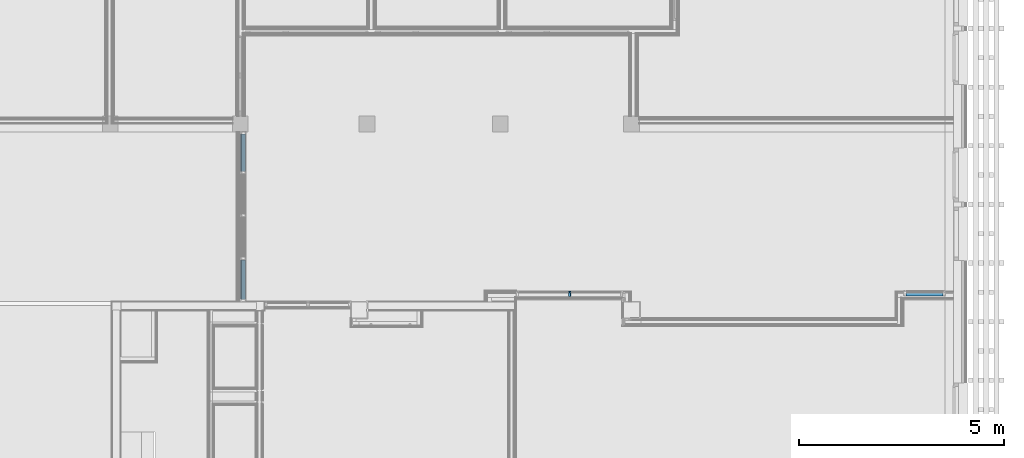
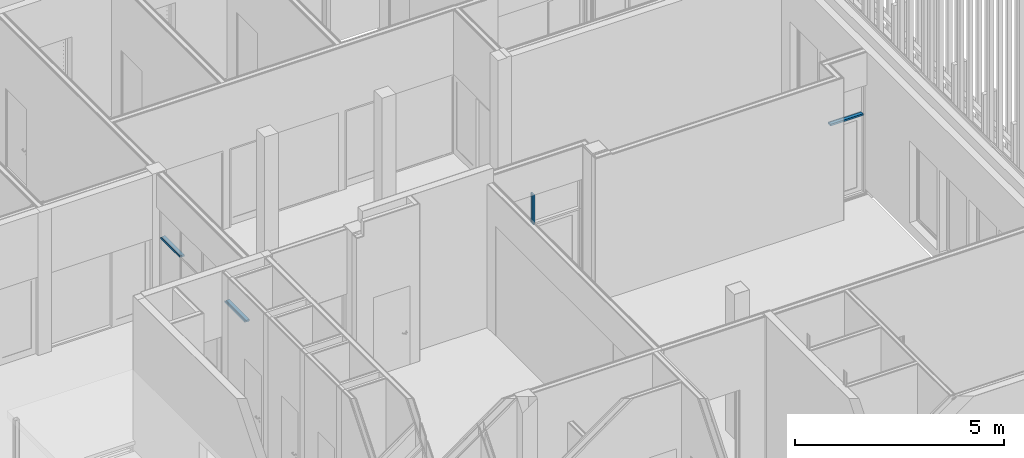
# One storey, part 98 of 260: 4 members, 3 elements without a shape of their own.
"""IFC2X3 building model written with IfcOpenShell, lengths in millimetres."""

from ifc_helpers import new_model, entity, si_unit, converted_unit, derived_unit, money_unit, direction, frame, origin_with_axes, place, context, subcontext, project, spatial, faceted_brep, material, type_object, element, aggregate, save


model = new_model("IFC2X3")

# Units and contexts
model_context = context("Model", 3, precision=0.01, world=origin_with_axes(), true_north=direction((0.0, 1.0)))
body_context = subcontext(model_context, "Body", "Model", "MODEL_VIEW")
ifc_project = project(units=[si_unit("LENGTHUNIT", "METRE", prefix="MILLI"), si_unit("AREAUNIT", "SQUARE_METRE"), si_unit("VOLUMEUNIT", "CUBIC_METRE"), converted_unit("PLANEANGLEUNIT", "DEGREE", entity("IfcPlaneAngleMeasure", 0.0174532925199), si_unit("PLANEANGLEUNIT", "RADIAN"), dimensions=[0, 0, 0, 0, 0, 0, 0]), money_unit("EUR"), converted_unit("TIMEUNIT", "Year", entity("IfcTimeMeasure", 31556926.0), si_unit("TIMEUNIT", "SECOND"), dimensions=[0, 0, 1, 0, 0, 0, 0]), si_unit("MASSUNIT", "GRAM", prefix="KILO"), si_unit("THERMODYNAMICTEMPERATUREUNIT", "DEGREE_CELSIUS"), si_unit("LUMINOUSINTENSITYUNIT", "LUMEN"), si_unit("ENERGYUNIT", "JOULE", prefix="MEGA"), derived_unit("THERMALCONDUCTANCEUNIT", [(si_unit("POWERUNIT", "WATT"), 1), (si_unit("LENGTHUNIT", "METRE"), -1), (si_unit("THERMODYNAMICTEMPERATUREUNIT", "KELVIN"), -1)]), derived_unit("SPECIFICHEATCAPACITYUNIT", [(si_unit("ENERGYUNIT", "JOULE"), 1), (si_unit("MASSUNIT", "GRAM", prefix="KILO"), -1), (si_unit("THERMODYNAMICTEMPERATUREUNIT", "KELVIN"), -1)]), derived_unit("MASSDENSITYUNIT", [(si_unit("MASSUNIT", "GRAM", prefix="KILO"), 1), (si_unit("VOLUMEUNIT", "CUBIC_METRE"), -1)])], contexts=[model_context])

# Site, building, storey
site_placement = place(None, origin_with_axes())
site = spatial("IfcSite", under=ifc_project, at=site_placement, Name="Kolde pst 67a", CompositionType="ELEMENT")
building_placement = place(site_placement, origin_with_axes())
building = spatial("IfcBuilding", under=site, at=building_placement, Name="Riigigümnaasium", CompositionType="ELEMENT")
storey_placement = place(building_placement, origin_with_axes())
storey = spatial("IfcBuildingStorey", under=building, at=storey_placement, Name="1. korrus", CompositionType="ELEMENT", Elevation=0.0)

# Curtain wall, members
curtain_wall_type = type_object("IfcCurtainWallType", Name="Curtain Wall Type", PredefinedType="NOTDEFINED")
curtain_wall_1_placement = place(storey_placement, frame((67073.6436674, 24969.9980242, -4.39663916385e-06), z_axis=(0.0, 0.0, 1.0), x_axis=(1.0, 0.0, 0.0)))
curtain_wall_1 = element("IfcCurtainWall", 1, at=curtain_wall_1_placement, inside=storey, type_object=curtain_wall_type, Name="KLAASSEIN")
ifc_material = material(Name="_METALL - alumiinium")
member_type_1 = type_object("IfcMemberType", Name="Transom Frame 50 x 125", PredefinedType="MEMBER")
member_1_placement = place(curtain_wall_1_placement, frame((0.0, -525.0, 2299.99999438), z_axis=(0.0, 1.0, 0.0), x_axis=(0.0, 0.0, 1.0)))
member_1 = element("IfcMember", 2, at=member_1_placement, type_object=member_type_1, material=ifc_material, Name="RF RAAM HOR-372", ObjectType="MEMBER", context=body_context, shape_type="Brep", body=[
    faceted_brep([(5.0, -10.0, 50.0), (5.0, 10.0, 50.0), (5.0, 10.0, 1025.0), (5.0, -10.0, 1025.0), (-5.0, -10.0, 50.0), (-5.0, 10.0, 50.0), (-5.0, 10.0, 1025.0), (-5.0, -10.0, 1025.0)], [[[0, 1, 2, 3]], [[1, 0, 4, 5]], [[1, 5, 6, 2]], [[2, 6, 7, 3]], [[4, 0, 3, 7]], [[5, 4, 7, 6]]]),
    faceted_brep([(25.0, 10.0, 50.0), (25.0, 100.0, 50.0), (25.0, 100.0, 1025.0), (25.0, 10.0, 1025.0), (-25.0, 10.0, 50.0), (-25.0, 100.0, 50.0), (-25.0, 100.0, 1025.0), (-25.0, 10.0, 1025.0)], [[[0, 1, 2, 3]], [[1, 0, 4, 5]], [[1, 5, 6, 2]], [[2, 6, 7, 3]], [[4, 0, 3, 7]], [[5, 4, 7, 6]]]),
    faceted_brep([(-25.0, -10.0, 50.0), (-25.0, -25.0, 50.0), (-25.0, -25.0, 1025.0), (-25.0, -10.0, 1025.0), (25.0, -10.0, 50.0), (25.0, -25.0, 50.0), (25.0, -25.0, 1025.0), (25.0, -10.0, 1025.0)], [[[0, 1, 2, 3]], [[1, 0, 4, 5]], [[1, 5, 6, 2]], [[2, 6, 7, 3]], [[4, 0, 3, 7]], [[5, 4, 7, 6]]]),
])
member_2_placement = place(curtain_wall_1_placement, frame((0.0, 2625.0, 2299.99999438), z_axis=(0.0, 1.0, 0.0), x_axis=(0.0, 0.0, 1.0)))
member_2 = element("IfcMember", 3, at=member_2_placement, type_object=member_type_1, material=ifc_material, Name="RF RAAM HOR-365", ObjectType="MEMBER", context=body_context, shape_type="Brep", body=[
    faceted_brep([(5.0, -10.0, 25.0), (5.0, 10.0, 25.0), (5.0, 10.0, 945.001639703), (5.0, -10.0, 945.001639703), (-5.0, -10.0, 25.0), (-5.0, 10.0, 25.0), (-5.0, 10.0, 945.001639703), (-5.0, -10.0, 945.001639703)], [[[0, 1, 2, 3]], [[1, 0, 4, 5]], [[1, 5, 6, 2]], [[2, 6, 7, 3]], [[4, 0, 3, 7]], [[5, 4, 7, 6]]]),
    faceted_brep([(25.0, 10.0, 25.0), (25.0, 100.0, 25.0), (25.0, 100.0, 945.001639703), (25.0, 10.0, 945.001639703), (-25.0, 10.0, 25.0), (-25.0, 100.0, 25.0), (-25.0, 100.0, 945.001639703), (-25.0, 10.0, 945.001639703)], [[[0, 1, 2, 3]], [[1, 0, 4, 5]], [[1, 5, 6, 2]], [[2, 6, 7, 3]], [[4, 0, 3, 7]], [[5, 4, 7, 6]]]),
    faceted_brep([(-25.0, -10.0, 25.0), (-25.0, -25.0, 25.0), (-25.0, -25.0, 945.001639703), (-25.0, -10.0, 945.001639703), (25.0, -10.0, 25.0), (25.0, -25.0, 25.0), (25.0, -25.0, 945.001639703), (25.0, -10.0, 945.001639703)], [[[0, 1, 2, 3]], [[1, 0, 4, 5]], [[1, 5, 6, 2]], [[2, 6, 7, 3]], [[4, 0, 3, 7]], [[5, 4, 7, 6]]]),
])
aggregate(curtain_wall_1, [member_1, member_2])

# Curtain wall, member
curtain_wall_2_placement = place(storey_placement, frame((83735.0006955, 24688.0768619, -4.19329628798e-05), z_axis=(0.0, 0.0, 1.0), x_axis=(1.0, 0.0, 0.0)))
curtain_wall_2 = element("IfcCurtainWall", 4, at=curtain_wall_2_placement, inside=storey, type_object=curtain_wall_type, Name="KLAASSEIN")
member_3_placement = place(curtain_wall_2_placement, frame((504.998632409, 0.0, 2300.00003754), z_axis=(-1.0, 0.0, 0.0), x_axis=(0.0, 0.0, 1.0)))
member_3 = element("IfcMember", 5, at=member_3_placement, type_object=member_type_1, material=ifc_material, Name="RF RAAM HOR-400", ObjectType="MEMBER", context=body_context, shape_type="Brep", body=[
    faceted_brep([(5.0, 10.0, 50.0), (5.0, 10.0, 959.997264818), (5.0, -10.0, 959.997264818), (5.0, -10.0, 50.0), (-5.0, 10.0, 50.0), (-5.0, 10.0, 959.997264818), (-5.0, -10.0, 959.997264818), (-5.0, -10.0, 50.0)], [[[0, 1, 2, 3]], [[4, 5, 1, 0]], [[2, 1, 5, 6]], [[3, 2, 6, 7]], [[3, 7, 4, 0]], [[7, 6, 5, 4]]]),
    faceted_brep([(25.0, -10.0, 50.0), (25.0, -10.0, 959.997264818), (25.0, -100.0, 959.997264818), (25.0, -100.0, 50.0), (-25.0, -10.0, 50.0), (-25.0, -10.0, 959.997264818), (-25.0, -100.0, 959.997264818), (-25.0, -100.0, 50.0)], [[[0, 1, 2, 3]], [[4, 5, 1, 0]], [[2, 1, 5, 6]], [[3, 2, 6, 7]], [[3, 7, 4, 0]], [[7, 6, 5, 4]]]),
    faceted_brep([(-25.0, 10.0, 50.0), (-25.0, 10.0, 959.997264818), (-25.0, 25.0, 959.997264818), (-25.0, 25.0, 50.0), (25.0, 10.0, 50.0), (25.0, 10.0, 959.997264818), (25.0, 25.0, 959.997264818), (25.0, 25.0, 50.0)], [[[0, 1, 2, 3]], [[4, 5, 1, 0]], [[2, 1, 5, 6]], [[3, 2, 6, 7]], [[3, 7, 4, 0]], [[7, 6, 5, 4]]]),
])
aggregate(curtain_wall_2, [member_3])

curtain_wall_3_placement = place(storey_placement, frame((75080.0012187, 24675.0981117, -4.39663905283e-06), z_axis=(0.0, 0.0, 1.0), x_axis=(1.0, 0.0, 0.0)))
curtain_wall_3 = element("IfcCurtainWall", 6, at=curtain_wall_3_placement, inside=storey, type_object=curtain_wall_type, Name="KLAASSEIN")
member_type_2 = type_object("IfcMemberType", Name="Mullion Frame 50 x 125", PredefinedType="MEMBER")
member_4_placement = place(curtain_wall_3_placement, frame((0.000844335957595, 0.0, 2300.0), z_axis=(0.0, 0.0, 1.0), x_axis=(1.0, 0.0, 0.0)))
member_4 = element("IfcMember", 7, at=member_4_placement, type_object=member_type_2, material=ifc_material, Name="RF RAAM VERT-370", ObjectType="MEMBER", context=body_context, shape_type="Brep", body=[
    faceted_brep([(5.0, -10.0, -25.0), (5.0, 10.0, -25.0), (5.0, 10.0, 849.999990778), (5.0, -10.0, 849.999990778), (-5.0, -10.0, -25.0), (-5.0, 10.0, -25.0), (-5.0, 10.0, 849.999990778), (-5.0, -10.0, 849.999990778)], [[[0, 1, 2, 3]], [[0, 4, 5, 1]], [[1, 5, 6, 2]], [[3, 2, 6, 7]], [[4, 0, 3, 7]], [[5, 4, 7, 6]]]),
    faceted_brep([(25.0, -100.0, -25.0), (25.0, -10.0, -25.0), (25.0, -10.0, 849.999990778), (25.0, -100.0, 849.999990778), (-25.0, -100.0, -25.0), (-25.0, -10.0, -25.0), (-25.0, -10.0, 849.999990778), (-25.0, -100.0, 849.999990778)], [[[0, 1, 2, 3]], [[0, 4, 5, 1]], [[1, 5, 6, 2]], [[3, 2, 6, 7]], [[4, 0, 3, 7]], [[5, 4, 7, 6]]]),
    faceted_brep([(-25.0, 25.0, -25.0), (-25.0, 10.0, -25.0), (-25.0, 10.0, 849.999990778), (-25.0, 25.0, 849.999990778), (25.0, 25.0, -25.0), (25.0, 10.0, -25.0), (25.0, 10.0, 849.999990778), (25.0, 25.0, 849.999990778)], [[[0, 1, 2, 3]], [[0, 4, 5, 1]], [[1, 5, 6, 2]], [[3, 2, 6, 7]], [[4, 0, 3, 7]], [[5, 4, 7, 6]]]),
])
aggregate(curtain_wall_3, [member_4])

save(model, "model.ifc")
